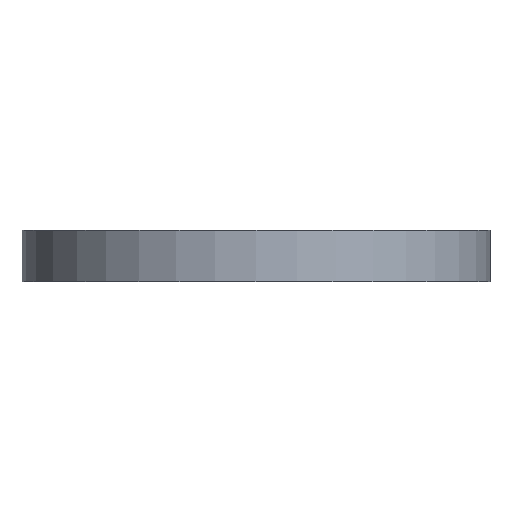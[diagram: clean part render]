
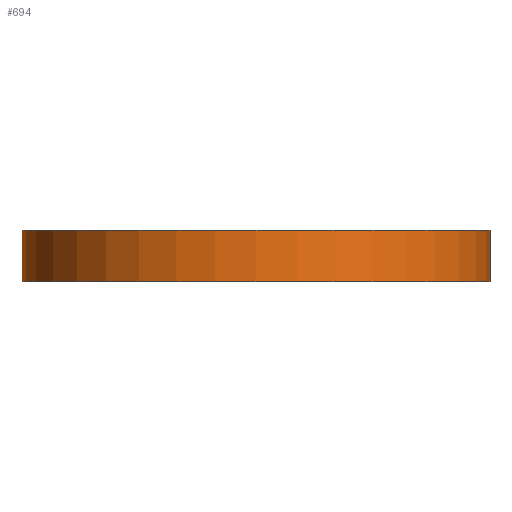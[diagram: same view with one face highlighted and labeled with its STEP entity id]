
A CAD part, front view. The second image highlights one B-rep face of the part: STEP entity #694.
In plain terms, the highlighted cylindrical face has radius 117.5 mm (diameter 235 mm), a partial arc.
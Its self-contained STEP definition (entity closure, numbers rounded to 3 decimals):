
#13 = DIRECTION ( 'NONE',  ( -1., 0., 0. ) ) ;
#31 = CIRCLE ( 'NONE', #424, 117.5 ) ;
#52 = CARTESIAN_POINT ( 'NONE',  ( 0., 0., -26. ) ) ;
#67 = DIRECTION ( 'NONE',  ( 0., 0., -1. ) ) ;
#96 = VECTOR ( 'NONE', #517, 1000. ) ;
#119 = EDGE_CURVE ( 'NONE', #578, #583, #766, .T. ) ;
#121 = CARTESIAN_POINT ( 'NONE',  ( 0., 0., 0. ) ) ;
#122 = DIRECTION ( 'NONE',  ( 0., 0., 1. ) ) ;
#123 = DIRECTION ( 'NONE',  ( 1., 0., 0. ) ) ;
#137 = LINE ( 'NONE', #384, #96 ) ;
#269 = DIRECTION ( 'NONE',  ( 0., 0., 1. ) ) ;
#283 = CARTESIAN_POINT ( 'NONE',  ( 117.5, 0., -26. ) ) ;
#301 = CIRCLE ( 'NONE', #355, 117.5 ) ;
#325 = FACE_OUTER_BOUND ( 'NONE', #725, .T. ) ;
#334 = EDGE_CURVE ( 'NONE', #583, #562, #301, .T. ) ;
#347 = CARTESIAN_POINT ( 'NONE',  ( 117.5, 0., 0. ) ) ;
#355 = AXIS2_PLACEMENT_3D ( 'NONE', #121, #122, #123 ) ;
#376 = VECTOR ( 'NONE', #768, 1000. ) ;
#384 = CARTESIAN_POINT ( 'NONE',  ( 117.5, 0., -75. ) ) ;
#391 = AXIS2_PLACEMENT_3D ( 'NONE', #644, #269, #436 ) ;
#393 = CARTESIAN_POINT ( 'NONE',  ( -117.5, 0., 0. ) ) ;
#424 = AXIS2_PLACEMENT_3D ( 'NONE', #52, #67, #13 ) ;
#427 = CARTESIAN_POINT ( 'NONE',  ( -117.5, 0., -26. ) ) ;
#436 = DIRECTION ( 'NONE',  ( 1., 0., 0. ) ) ;
#437 = EDGE_CURVE ( 'NONE', #455, #578, #31, .T. ) ;
#455 = VERTEX_POINT ( 'NONE', #283 ) ;
#488 = CYLINDRICAL_SURFACE ( 'NONE', #391, 117.5 ) ;
#510 = EDGE_CURVE ( 'NONE', #455, #562, #137, .T. ) ;
#517 = DIRECTION ( 'NONE',  ( 0., 0., 1. ) ) ;
#562 = VERTEX_POINT ( 'NONE', #347 ) ;
#573 = ORIENTED_EDGE ( 'NONE', *, *, #119, .F. ) ;
#575 = ORIENTED_EDGE ( 'NONE', *, *, #437, .F. ) ;
#576 = ORIENTED_EDGE ( 'NONE', *, *, #510, .T. ) ;
#578 = VERTEX_POINT ( 'NONE', #427 ) ;
#583 = VERTEX_POINT ( 'NONE', #393 ) ;
#584 = ORIENTED_EDGE ( 'NONE', *, *, #334, .F. ) ;
#644 = CARTESIAN_POINT ( 'NONE',  ( 0., 0., -75. ) ) ;
#694 = ADVANCED_FACE ( 'NONE', ( #325 ), #488, .T. ) ;
#725 = EDGE_LOOP ( 'NONE', ( #573, #575, #576, #584 ) ) ;
#766 = LINE ( 'NONE', #767, #376 ) ;
#767 = CARTESIAN_POINT ( 'NONE',  ( -117.5, 0., -75. ) ) ;
#768 = DIRECTION ( 'NONE',  ( 0., 0., 1. ) ) ;
